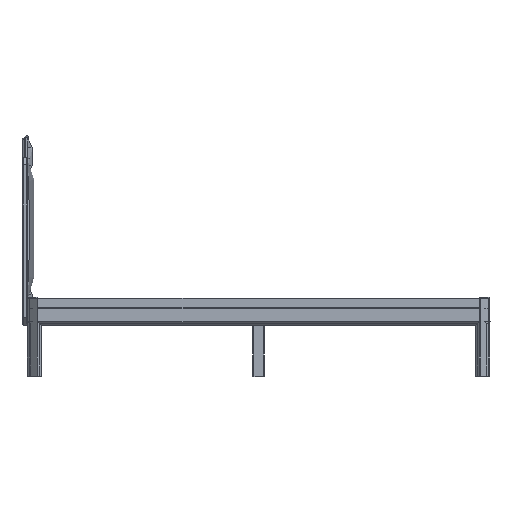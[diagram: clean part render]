
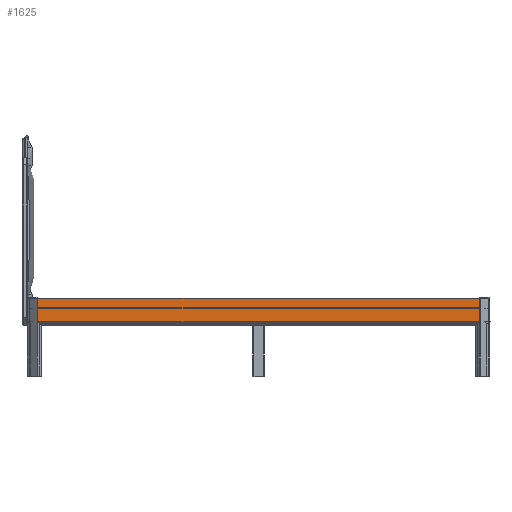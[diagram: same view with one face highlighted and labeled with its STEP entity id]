
A CAD part, left-side view. The second image highlights one B-rep face of the part: STEP entity #1625.
In plain terms, the highlighted planar face has unit normal (-1, 0, 0).
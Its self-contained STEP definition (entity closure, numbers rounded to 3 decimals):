
#1625=ADVANCED_FACE('',(#3331),#25470,.T.);
#3331=FACE_OUTER_BOUND('',#5055,.T.);
#5055=EDGE_LOOP('',(#9775,#9776,#9777,#9778,#9779,#9780));
#9775=ORIENTED_EDGE('',*,*,#16187,.T.);
#9776=ORIENTED_EDGE('',*,*,#16188,.F.);
#9777=ORIENTED_EDGE('',*,*,#16167,.F.);
#9778=ORIENTED_EDGE('',*,*,#16174,.F.);
#9779=ORIENTED_EDGE('',*,*,#16182,.F.);
#9780=ORIENTED_EDGE('',*,*,#16199,.T.);
#16167=EDGE_CURVE('',#23755,#23756,#21571,.T.);
#16174=EDGE_CURVE('',#23764,#23755,#21578,.T.);
#16182=EDGE_CURVE('',#23772,#23764,#21581,.T.);
#16187=EDGE_CURVE('',#23777,#23769,#21585,.T.);
#16188=EDGE_CURVE('',#23756,#23769,#19521,.T.);
#16199=EDGE_CURVE('',#23772,#23777,#21592,.T.);
#19521=(
BOUNDED_CURVE()
B_SPLINE_CURVE(1,(#50652,#50653),.UNSPECIFIED.,.F.,.F.)
B_SPLINE_CURVE_WITH_KNOTS((2,2),(-1918.4,0.),.UNSPECIFIED.)
CURVE()
GEOMETRIC_REPRESENTATION_ITEM()
RATIONAL_B_SPLINE_CURVE((1.,1.))
REPRESENTATION_ITEM('')
);
#21571=B_SPLINE_CURVE_WITH_KNOTS('',1,(#50577,#50578),.UNSPECIFIED.,.F.,
 .F.,(2,2),(0.,100.963),.UNSPECIFIED.);
#21578=B_SPLINE_CURVE_WITH_KNOTS('',1,(#50619,#50620),.UNSPECIFIED.,.F.,
 .F.,(2,2),(0.,0.017),.UNSPECIFIED.);
#21581=B_SPLINE_CURVE_WITH_KNOTS('',1,(#50640,#50641),.UNSPECIFIED.,.F.,
 .F.,(2,2),(0.,1918.376),.UNSPECIFIED.);
#21585=B_SPLINE_CURVE_WITH_KNOTS('',1,(#50650,#50651),.UNSPECIFIED.,.F.,
 .F.,(2,2),(0.,100.963),.UNSPECIFIED.);
#21592=B_SPLINE_CURVE_WITH_KNOTS('',1,(#50690,#50691),.UNSPECIFIED.,.F.,
 .F.,(2,2),(-0.017,0.),.UNSPECIFIED.);
#23755=VERTEX_POINT('',#50550);
#23756=VERTEX_POINT('',#50551);
#23764=VERTEX_POINT('',#50559);
#23769=VERTEX_POINT('',#50564);
#23772=VERTEX_POINT('',#50567);
#23777=VERTEX_POINT('',#50572);
#25470=PLANE('',#26879);
#26879=AXIS2_PLACEMENT_3D('',#50542,#28263,$);
#28263=DIRECTION('',(-1.,0.,0.));
#50542=CARTESIAN_POINT('',(-3705.5,1154.552,227.32));
#50550=CARTESIAN_POINT('',(-3705.5,962.7,237.441));
#50551=CARTESIAN_POINT('',(-3705.5,962.7,338.404));
#50559=CARTESIAN_POINT('',(-3705.5,962.688,237.429));
#50564=CARTESIAN_POINT('',(-3705.5,-955.7,338.404));
#50567=CARTESIAN_POINT('',(-3705.5,-955.688,237.429));
#50572=CARTESIAN_POINT('',(-3705.5,-955.7,237.441));
#50577=CARTESIAN_POINT('',(-3705.5,962.7,237.441));
#50578=CARTESIAN_POINT('',(-3705.5,962.7,338.404));
#50619=CARTESIAN_POINT('',(-3705.5,962.688,237.429));
#50620=CARTESIAN_POINT('',(-3705.5,962.7,237.441));
#50640=CARTESIAN_POINT('',(-3705.5,-955.688,237.429));
#50641=CARTESIAN_POINT('',(-3705.5,962.688,237.429));
#50650=CARTESIAN_POINT('',(-3705.5,-955.7,237.441));
#50651=CARTESIAN_POINT('',(-3705.5,-955.7,338.404));
#50652=CARTESIAN_POINT('',(-3705.5,962.7,338.404));
#50653=CARTESIAN_POINT('',(-3705.5,-955.7,338.404));
#50690=CARTESIAN_POINT('',(-3705.5,-955.688,237.429));
#50691=CARTESIAN_POINT('',(-3705.5,-955.7,237.441));
